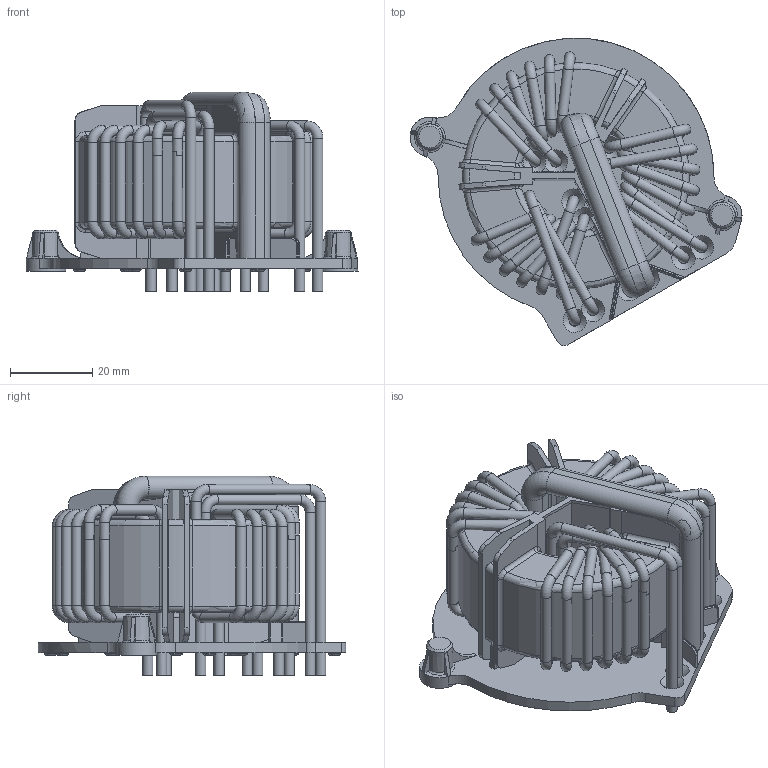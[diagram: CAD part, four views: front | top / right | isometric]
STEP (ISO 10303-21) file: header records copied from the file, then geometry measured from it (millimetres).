
FILE_DESCRIPTION((''),'2;1');
FILE_NAME('K:\Development\Projects\RB\Angel_standard choke series 2011\70_Realization_Revision\702_MechanicalDesign\Drawing for Harald\RB6132\RB6132-50-0M2.stp','2012-11-09T12:59:36',('Fiona.chen'),(''),'Autodesk Inventor 2010','Autodesk Inventor 2010','');
FILE_SCHEMA(('AUTOMOTIVE_DESIGN { 1 0 10303 214 1 1 1 1 }'));
Length unit declared in the file: millimetre
Products named in the file (1): 零件13
Bounding box: 80.5 x 74.5 x 48.45 mm (x, y, z)
Volume: 64312.9 mm3; surface area: 45826.8 mm2
Topology: 1 solids, 1 shells, 1061 faces, 3088 edges, 1949 vertices
Faces by surface type: plane 510, cylinder 279, torus 163, bspline 60, cone 47, sphere 2
Full cylindrical faces by diameter (mm): 2.5 x105, 2.7 x12, 3 x10, 9.6 x2
Entity records: 38838 total; most frequent: CARTESIAN_POINT 12020, ORIENTED_EDGE 5398, DIRECTION 5098, EDGE_CURVE 2699, AXIS2_PLACEMENT_3D 1900, VERTEX_POINT 1788, EDGE_LOOP 1388, VECTOR 1298
